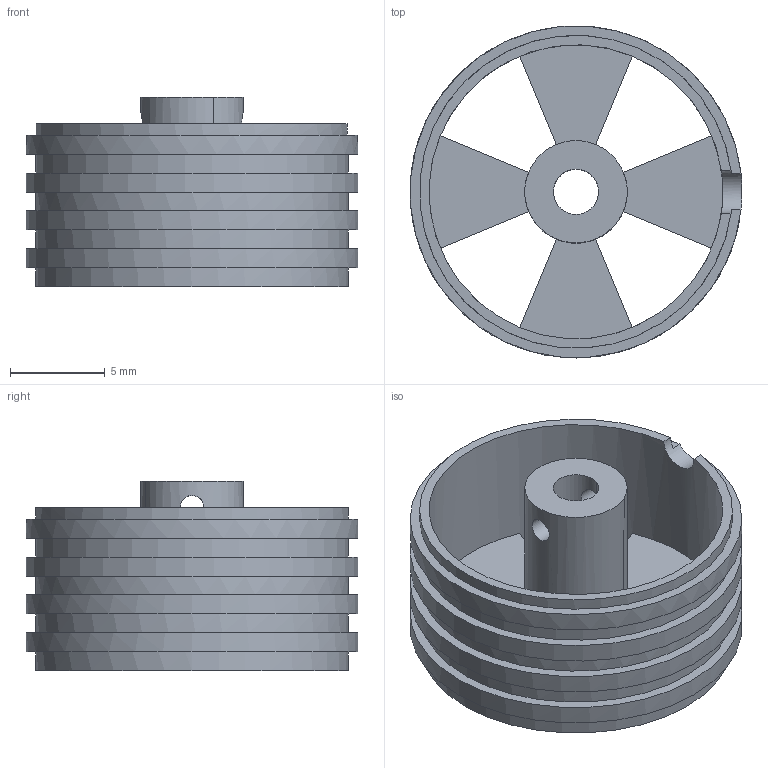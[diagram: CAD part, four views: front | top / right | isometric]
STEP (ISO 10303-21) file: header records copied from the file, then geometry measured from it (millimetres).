
FILE_DESCRIPTION(('Open CASCADE Model'),'2;1');
FILE_NAME('Open CASCADE Shape Model','2026-10-27T00:27:54',('Author'),( 'Open CASCADE'),'Open CASCADE STEP processor 7.9','Open CASCADE 7.9' ,'Unknown');
FILE_SCHEMA(('AUTOMOTIVE_DESIGN { 1 0 10303 214 1 1 1 1 }'));
Length unit declared in the file: millimetre
Products named in the file (1): Open CASCADE STEP translator 7.9 1
Bounding box: 17.5 x 17.5 x 10 mm (x, y, z)
Volume: 667.8 mm3; surface area: 1607.6 mm2
Topology: 1 solids, 1 shells, 42 faces, 120 edges, 81 vertices
Faces by surface type: plane 23, cylinder 19
Full cylindrical faces by diameter (mm): 1.25 x2, 15.5 x1, 16.5 x4, 17.5 x4
Entity records: 9133 total; most frequent: CARTESIAN_POINT 6821, DIRECTION 409, ORIENTED_EDGE 240, PCURVE 240, DEFINITIONAL_REPRESENTATION 240, LINE 189, VECTOR 189, EDGE_CURVE 120
